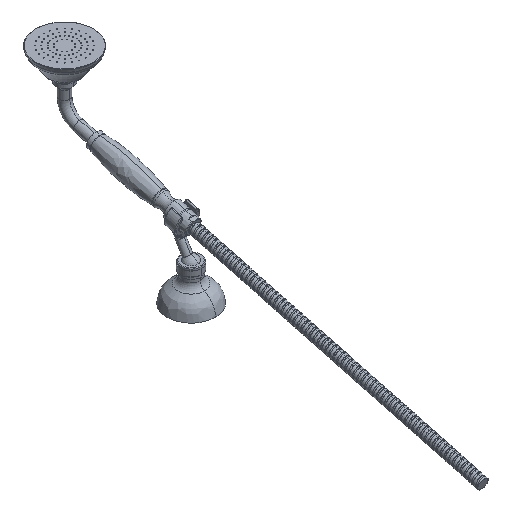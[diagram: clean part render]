
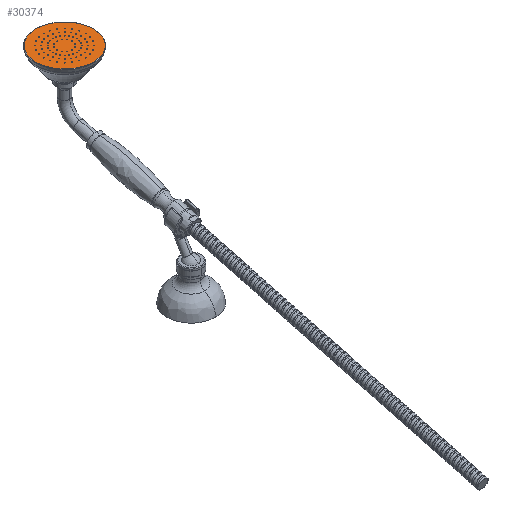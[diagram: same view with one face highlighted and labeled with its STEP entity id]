
A CAD part, isometric view. The second image highlights one B-rep face of the part: STEP entity #30374.
In plain terms, the highlighted planar face has unit normal (0, 0, 1).
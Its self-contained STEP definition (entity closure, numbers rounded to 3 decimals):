
#5759=CARTESIAN_POINT('',(200.,168.93,153.964));
#5760=DIRECTION('',(0.,0.,1.));
#5761=DIRECTION('',(0.,1.,0.));
#5762=AXIS2_PLACEMENT_3D('',#5759,#5760,#5761);
#5764=CARTESIAN_POINT('',(200.,168.93,153.964));
#5765=DIRECTION('',(0.,0.,1.));
#5766=DIRECTION('',(0.,-1.,0.));
#5767=AXIS2_PLACEMENT_3D('',#5764,#5765,#5766);
#24488=CARTESIAN_POINT('',(200.,207.278,153.964));
#24489=CARTESIAN_POINT('',(200.,130.581,153.964));
#24490=VERTEX_POINT('',#24488);
#24491=VERTEX_POINT('',#24489);
#30364=CARTESIAN_POINT('',(200.,168.93,153.964));
#30365=DIRECTION('',(0.,0.,-1.));
#30366=DIRECTION('',(0.,-1.,0.));
#30367=AXIS2_PLACEMENT_3D('',#30364,#30365,#30366);
#30368=PLANE('',#30367);
#30369=ORIENTED_EDGE('',*,*,#30354,.F.);
#30371=ORIENTED_EDGE('',*,*,#30370,.F.);
#30372=EDGE_LOOP('',(#30369,#30371));
#30373=FACE_OUTER_BOUND('',#30372,.F.);
#30374=ADVANCED_FACE('',(#30373),#30368,.F.);
#5763=CIRCLE('',#5762,38.348);
#5768=CIRCLE('',#5767,38.348);
#30354=EDGE_CURVE('',#24490,#24491,#5763,.T.);
#30370=EDGE_CURVE('',#24491,#24490,#5768,.T.);
